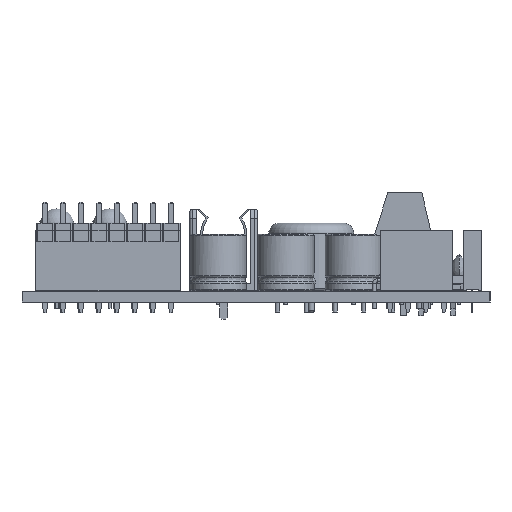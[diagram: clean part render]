
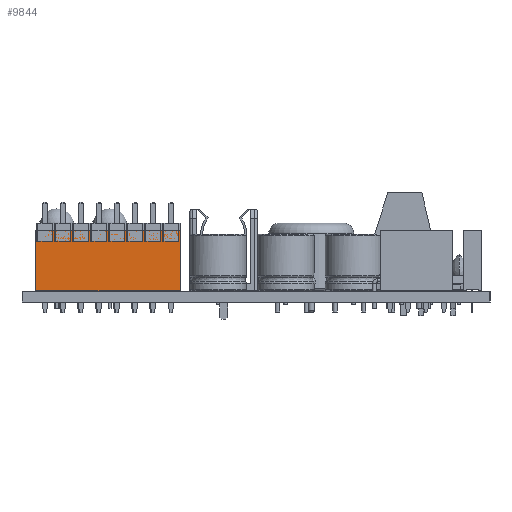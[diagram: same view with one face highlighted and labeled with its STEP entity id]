
A CAD part, left-side view. The second image highlights one B-rep face of the part: STEP entity #9844.
In plain terms, the highlighted planar face has unit normal (-1, 0, 0).
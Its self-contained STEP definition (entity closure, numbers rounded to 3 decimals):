
#8821 = VERTEX_POINT('',#8822);
#8822 = CARTESIAN_POINT('',(-1.27,-19.05,0.));
#8830 = EDGE_CURVE('',#8821,#8831,#8833,.T.);
#8831 = VERTEX_POINT('',#8832);
#8832 = CARTESIAN_POINT('',(-1.27,-19.05,8.5));
#8833 = LINE('',#8834,#8835);
#8834 = CARTESIAN_POINT('',(-1.27,-19.05,0.));
#8835 = VECTOR('',#8836,1.);
#8836 = DIRECTION('',(0.,0.,1.));
#8893 = VERTEX_POINT('',#8894);
#8894 = CARTESIAN_POINT('',(-1.27,1.27,8.5));
#8900 = EDGE_CURVE('',#8901,#8893,#8903,.T.);
#8901 = VERTEX_POINT('',#8902);
#8902 = CARTESIAN_POINT('',(-1.27,1.27,0.));
#8903 = LINE('',#8904,#8905);
#8904 = CARTESIAN_POINT('',(-1.27,1.27,0.));
#8905 = VECTOR('',#8906,1.);
#8906 = DIRECTION('',(0.,0.,1.));
#8965 = EDGE_CURVE('',#8893,#8831,#8966,.T.);
#8966 = LINE('',#8967,#8968);
#8967 = CARTESIAN_POINT('',(-1.27,1.27,8.5));
#8968 = VECTOR('',#8969,1.);
#8969 = DIRECTION('',(0.,-1.,0.));
#9260 = EDGE_CURVE('',#8901,#8821,#9261,.T.);
#9261 = LINE('',#9262,#9263);
#9262 = CARTESIAN_POINT('',(-1.27,1.27,0.));
#9263 = VECTOR('',#9264,1.);
#9264 = DIRECTION('',(0.,-1.,0.));
#9844 = ADVANCED_FACE('',(#9845),#9851,.F.);
#9845 = FACE_BOUND('',#9846,.F.);
#9846 = EDGE_LOOP('',(#9847,#9848,#9849,#9850));
#9847 = ORIENTED_EDGE('',*,*,#8900,.T.);
#9848 = ORIENTED_EDGE('',*,*,#8965,.T.);
#9849 = ORIENTED_EDGE('',*,*,#8830,.F.);
#9850 = ORIENTED_EDGE('',*,*,#9260,.F.);
#9851 = PLANE('',#9852);
#9852 = AXIS2_PLACEMENT_3D('',#9853,#9854,#9855);
#9853 = CARTESIAN_POINT('',(-1.27,1.27,0.));
#9854 = DIRECTION('',(1.,0.,0.));
#9855 = DIRECTION('',(0.,-1.,0.));
